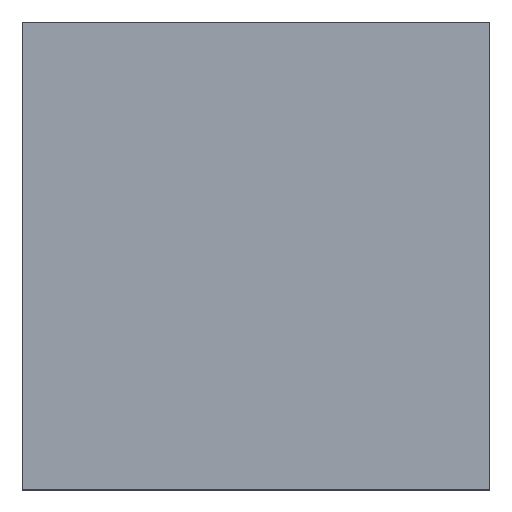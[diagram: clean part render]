
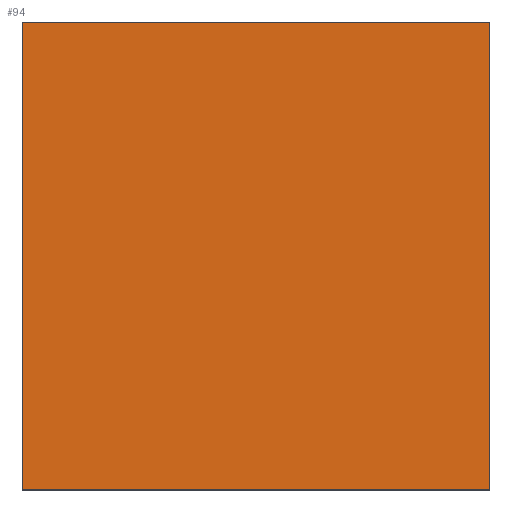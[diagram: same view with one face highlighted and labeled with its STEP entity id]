
A CAD part, top view. The second image highlights one B-rep face of the part: STEP entity #94.
In plain terms, the highlighted planar face has unit normal (0, 0, 1).
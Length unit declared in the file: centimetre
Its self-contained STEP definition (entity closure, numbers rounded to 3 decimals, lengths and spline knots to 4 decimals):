
#13 = CARTESIAN_POINT ( 'NONE',  ( 1000., 1000., 1000. ) ) ;
#17 = CARTESIAN_POINT ( 'NONE',  ( 0., 0., 1000. ) ) ;
#41 = DIRECTION ( 'NONE',  ( 1., 0., 0. ) ) ;
#42 = DIRECTION ( 'NONE',  ( -1., 0., 0. ) ) ;
#43 = LINE ( 'NONE', #327, #186 ) ;
#59 = EDGE_CURVE ( 'NONE', #259, #311, #153, .T. ) ;
#94 = ADVANCED_FACE ( 'NONE', ( #133 ), #200, .T. ) ;
#106 = DIRECTION ( 'NONE',  ( 1., 0., 0. ) ) ;
#109 = CARTESIAN_POINT ( 'NONE',  ( 0., 1000., 1000. ) ) ;
#128 = DIRECTION ( 'NONE',  ( 0., 0., 1. ) ) ;
#132 = CARTESIAN_POINT ( 'NONE',  ( 1000., 0., 1000. ) ) ;
#133 = FACE_OUTER_BOUND ( 'NONE', #278, .T. ) ;
#153 = LINE ( 'NONE', #408, #250 ) ;
#160 = ORIENTED_EDGE ( 'NONE', *, *, #59, .T. ) ;
#174 = ORIENTED_EDGE ( 'NONE', *, *, #179, .T. ) ;
#175 = LINE ( 'NONE', #109, #386 ) ;
#179 = EDGE_CURVE ( 'NONE', #311, #392, #43, .T. ) ;
#186 = VECTOR ( 'NONE', #42, 100. ) ;
#187 = ORIENTED_EDGE ( 'NONE', *, *, #407, .T. ) ;
#200 = PLANE ( 'NONE',  #276 ) ;
#235 = CARTESIAN_POINT ( 'NONE',  ( 0., 1000., 1000. ) ) ;
#247 = CARTESIAN_POINT ( 'NONE',  ( 0., 0., 1000. ) ) ;
#250 = VECTOR ( 'NONE', #379, 100. ) ;
#259 = VERTEX_POINT ( 'NONE', #132 ) ;
#276 = AXIS2_PLACEMENT_3D ( 'NONE', #247, #128, #106 ) ;
#278 = EDGE_LOOP ( 'NONE', ( #187, #382, #160, #174 ) ) ;
#294 = DIRECTION ( 'NONE',  ( 0., -1., 0. ) ) ;
#311 = VERTEX_POINT ( 'NONE', #13 ) ;
#322 = CARTESIAN_POINT ( 'NONE',  ( 0., 0., 1000. ) ) ;
#326 = VECTOR ( 'NONE', #41, 100. ) ;
#327 = CARTESIAN_POINT ( 'NONE',  ( 0., 1000., 1000. ) ) ;
#370 = LINE ( 'NONE', #322, #326 ) ;
#379 = DIRECTION ( 'NONE',  ( 0., 1., 0. ) ) ;
#382 = ORIENTED_EDGE ( 'NONE', *, *, #394, .T. ) ;
#386 = VECTOR ( 'NONE', #294, 100. ) ;
#392 = VERTEX_POINT ( 'NONE', #235 ) ;
#394 = EDGE_CURVE ( 'NONE', #411, #259, #370, .T. ) ;
#407 = EDGE_CURVE ( 'NONE', #392, #411, #175, .T. ) ;
#408 = CARTESIAN_POINT ( 'NONE',  ( 1000., 1000., 1000. ) ) ;
#411 = VERTEX_POINT ( 'NONE', #17 ) ;
